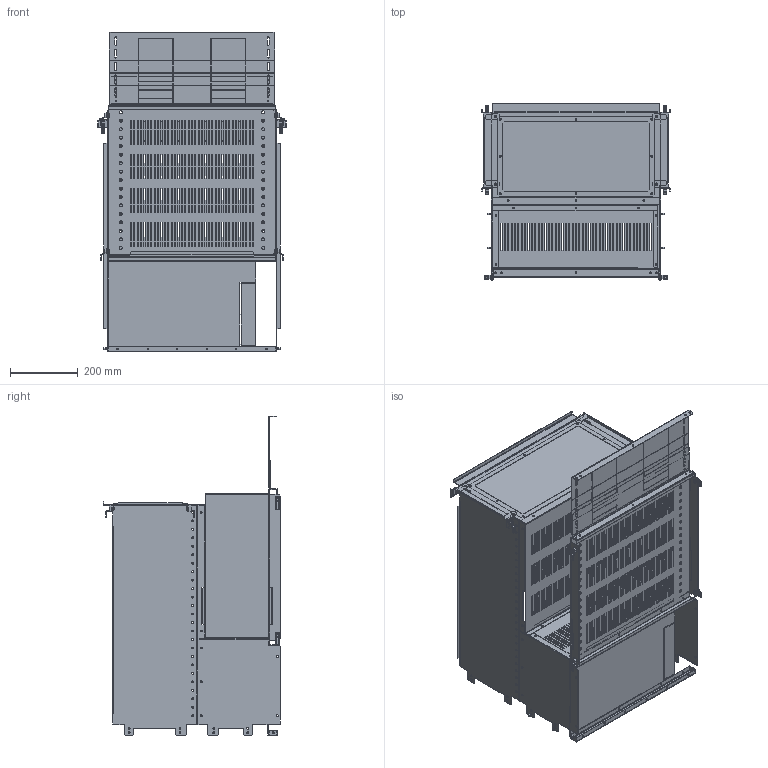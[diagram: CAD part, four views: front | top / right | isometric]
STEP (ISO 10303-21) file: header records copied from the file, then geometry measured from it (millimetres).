
FILE_DESCRIPTION(('CAx-IF Rec.Pracs.---Model Styling and Organization---1.2---2011-12-15','CAx-IF Rec.Pracs.---Geometric and Assembly Validation Properties---4.1---2014-06-16','CAx-IF Rec.Pracs.---PMI Polyline Presentation---2.0---2013-05-24'),'2;1');
FILE_NAME('R5FCMR56048.stp','2021-05-06T02:38:02+03:00',(''),(''),'STEP Interface 4.4 by CT CoreTechnologie','3D_Evolution4.4 by CT CoreTechnologie','');
FILE_SCHEMA(('AUTOMOTIVE_DESIGN { 1 0 10303 214 1 1 1 1 }'));
Length unit declared in the file: millimetre
Products named in the file (21): R5FCMR56048; RB.0696.00.00.1_-00; RB.0705.00.00.1_-06; M6x16-DIN 7985 ISR_thread; RB.0699.00.00.1_-00; AC00C485; M5x12-DIN7500C_stright; RB.0694.00.00.1_-00; RB.0698.00.00.1_-03; RB.0700.00.00.1_-00; RB.0707.00.00.1_-00; RB.0697.00.00.1_-01; RB.0705.00.00.1_-02; RB.1165.00.00.0_-02; RB.0706.00.00.1_-02; RB.0695.00.00.1_-00; RB.0691.00.00.1_-02; RB.0546.00.00.0_-00; RB.0546.00.00.0_-01; RB.0706.00.00.1_-00; RB.0708.00.00.1_-00
Assembly tree (40 placements, depth 2):
  R5FCMR56048
    RB.0696.00.00.1_-00  x2
    RB.0705.00.00.1_-06
    M6x16-DIN 7985 ISR_thread  x8
    RB.0699.00.00.1_-00
    AC00C485  x8
    M5x12-DIN7500C_stright  x4
    RB.0694.00.00.1_-00
    RB.0698.00.00.1_-03
    RB.0700.00.00.1_-00
    RB.0707.00.00.1_-00
    RB.0697.00.00.1_-01
    RB.0705.00.00.1_-02
    RB.1165.00.00.0_-02
    RB.0706.00.00.1_-02
    RB.0695.00.00.1_-00
    RB.0691.00.00.1_-02
    RB.0546.00.00.0_-00  x2
    RB.0546.00.00.0_-01  x2
    RB.0706.00.00.1_-00
    RB.0708.00.00.1_-00
Bounding box: 555.5 x 524 x 943.5 mm (x, y, z)
Surface area: 3485539.2 mm2 (no closed solid volume)
Topology: 0 solids, 58 shells, 3596 faces, 10058 edges, 6546 vertices
Faces by surface type: plane 2514, cylinder 958, bspline 124
Entity records: 93931 total; most frequent: CARTESIAN_POINT 16735, ORIENTED_EDGE 15918, DIRECTION 14655, EDGE_CURVE 7959, VECTOR 6765, LINE 6765, VERTEX_POINT 5253, EDGE_LOOP 3988
